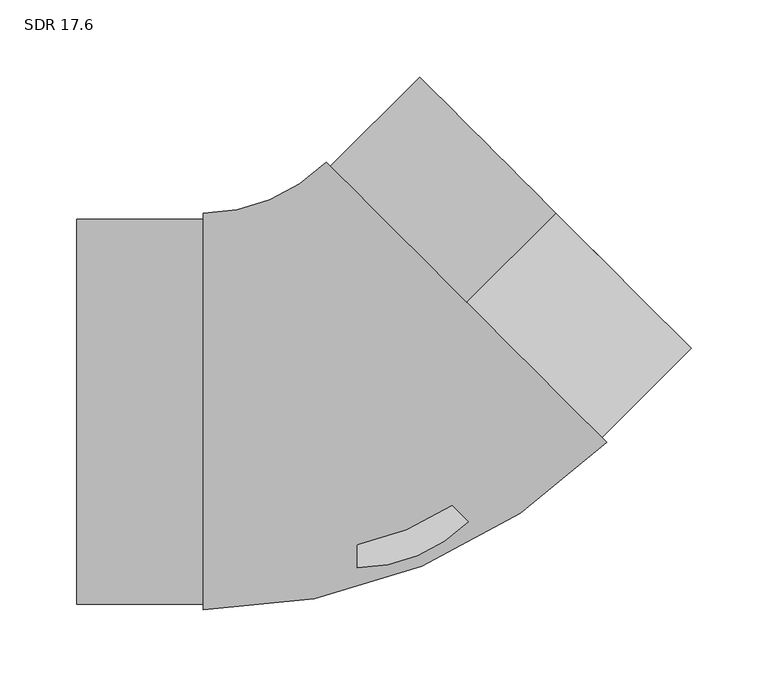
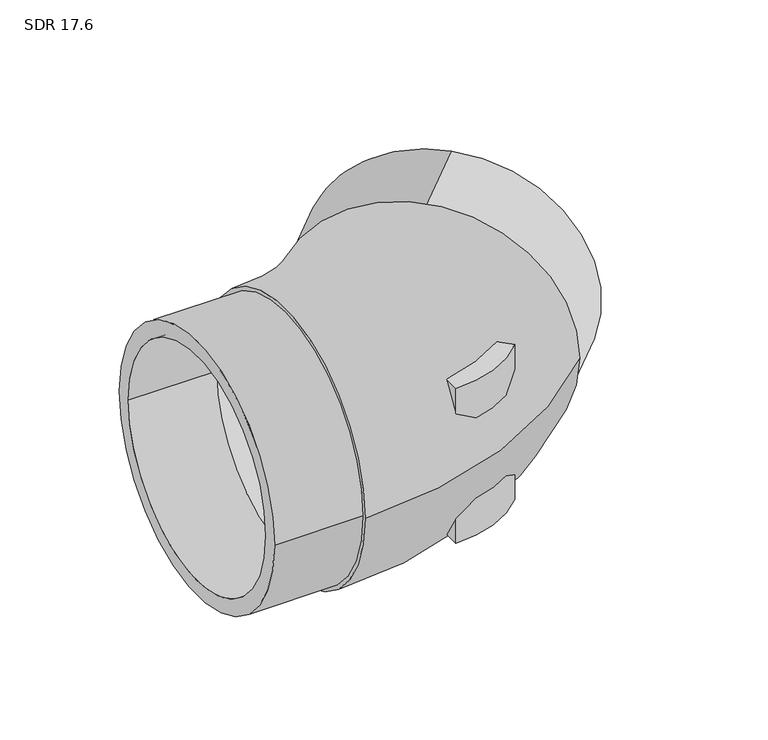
"""IFC4 building model written with IfcOpenShell, lengths in millimetres: pipe fitting geometry, Aquatherm - Elbow BW Molded : SDR 17.6."""

from ifc_helpers import new_model, si_unit, point, frame, frame_2d, origin, origin_with_axes, origin_2d, place, context, project, spatial, polyline, circle_curve, ellipse_curve, trimmed, segment, composite_curve, outline, extrude, source, transform, mapped, element, save
from ifc_brep_helpers import plane_surface, revolved_surface, advanced_brep


def sdr_17_6_bf7580e8(model_context):
    return source(origin(), model_context, "Body", "SolidModel", [
        extrude(outline(composite_curve([segment(polyline([(0.0, -101.6), (0.0, 0.0), (71.8491494, -71.8349478)]), True, "CONTINUOUS"), segment(trimmed(circle_curve(origin_2d(), 101.6), [point((71.8491494, -71.8349478))], [point((0.0, -101.6))], False, "CARTESIAN"), True, "CONTINUOUS")], self_intersect=False)), frame((0.0, 0.0, -76.2), z_axis=(0.0, 0.0, 1.0), x_axis=(1.0, 0.0, 0.0)), (0.0, 0.0, 1.0), 76.2),
        extrude(outline(composite_curve([segment(trimmed(circle_curve(origin_2d(), 101.6), [point((71.8491494, -71.8349478))], [point((0.0, -101.6))], False, "CARTESIAN"), True, "CONTINUOUS"), segment(polyline([(0.0, -101.6), (0.0, 0.0), (71.8491494, -71.8349478)]), True, "CONTINUOUS")], self_intersect=False)), origin_with_axes(), (0.0, 0.0, 1.0), 76.2),
        extrude(outline(composite_curve([segment(trimmed(circle_curve(frame_2d((0.0, -124.968)), 124.968), [point((0.0, -249.936))], [point((0.0, 0.0))], False, "CARTESIAN"), True, "CONTINUOUS"), segment(trimmed(circle_curve(frame_2d((0.0, -124.968)), 124.968), [point((0.0, 0.0))], [point((0.0, -249.936))], False, "CARTESIAN"), True, "CONTINUOUS")], self_intersect=False), holes=[composite_curve([segment(trimmed(circle_curve(frame_2d((0.0, -124.968)), 110.2658824), [point((0.0, -235.2338824))], [point((0.0, -14.7021176))], True, "CARTESIAN"), True, "CONTINUOUS"), segment(trimmed(circle_curve(frame_2d((0.0, -124.968)), 110.2658824), [point((0.0, -14.7021176))], [point((0.0, -235.2338824))], True, "CARTESIAN"), True, "CONTINUOUS")], self_intersect=False)]), frame((70.8202792, 70.8342802, 124.968), z_axis=(0.707036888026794, 0.7071766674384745, 0.0), x_axis=(-0.7071766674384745, 0.707036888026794, 0.0)), (0.0, 0.0, 1.0), 81.9531),
        extrude(outline(composite_curve([segment(trimmed(circle_curve(frame_2d((-0.1496481, 0.0)), 124.968), [point((124.8183519, 0.0))], [point((-125.1176481, 0.0))], False, "CARTESIAN"), True, "CONTINUOUS"), segment(trimmed(circle_curve(frame_2d((-0.1496481, 0.0)), 124.968), [point((-125.1176481, 0.0))], [point((124.8183519, 0.0))], False, "CARTESIAN"), True, "CONTINUOUS")], self_intersect=False), holes=[composite_curve([segment(trimmed(circle_curve(origin_2d(), 110.2658824), [point((110.2658824, 0.0))], [point((-110.2658824, 0.0))], True, "CARTESIAN"), True, "CONTINUOUS"), segment(trimmed(circle_curve(origin_2d(), 110.2658824), [point((-110.2658824, 0.0))], [point((110.2658824, 0.0))], True, "CARTESIAN"), True, "CONTINUOUS")], self_intersect=False)]), frame((-182.118, 0.0, 0.0), z_axis=(1.0, 0.0, 0.0), x_axis=(0.0, 1.0, 0.0)), (0.0, 0.0, 1.0), 81.9531),
        advanced_brep(
        [(-100.1649, -128.71704, 0.0), (-100.1649, 128.71704, 0.0), (-100.1649, -110.2658824, 0.0), (-100.1649, 110.2658824, 0.0), (161.8459666, -20.1734152, 0.0), (-20.2054082, 161.8419756, 0.0), (148.7977384, -7.1277661, 0.0), (-7.15718, 148.7963265, 0.0)],
        [
            (0, 1, circle_curve(frame((-100.1649, 0.0, 0.0), z_axis=(-1.0, 0.0, 0.0), x_axis=(0.0, 1.0, 0.0)), 128.71704)),
            (1, 0, circle_curve(frame((-100.1649, 0.0, 0.0), z_axis=(-1.0, 0.0, 0.0), x_axis=(0.0, 1.0, 0.0)), 128.71704)),
            (2, 3, circle_curve(frame((-100.1649, 0.0, 0.0), z_axis=(1.0, 0.0, 0.0), x_axis=(0.0, 1.0, 0.0)), 110.2658824)),
            (3, 2, circle_curve(frame((-100.1649, 0.0, 0.0), z_axis=(1.0, 0.0, 0.0), x_axis=(0.0, 1.0, 0.0)), 110.2658824)),
            (4, 5, circle_curve(frame((70.8202792, 70.8342802, 0.0), z_axis=(0.707036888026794, 0.7071766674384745, 0.0), x_axis=(-0.7071766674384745, 0.707036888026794, 0.0)), 128.71704)),
            (5, 4, circle_curve(frame((70.8202792, 70.8342802, 0.0), z_axis=(0.707036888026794, 0.7071766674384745, 0.0), x_axis=(-0.7071766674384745, 0.707036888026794, 0.0)), 128.71704)),
            (6, 7, circle_curve(frame((70.8202792, 70.8342802, 0.0), z_axis=(-0.707036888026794, -0.7071766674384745, 0.0), x_axis=(-0.7071766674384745, 0.707036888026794, 0.0)), 110.2658824)),
            (7, 6, circle_curve(frame((70.8202792, 70.8342802, 0.0), z_axis=(-0.707036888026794, -0.7071766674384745, 0.0), x_axis=(-0.7071766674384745, 0.707036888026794, 0.0)), 110.2658824)),
            (5, 1, circle_curve(frame((-100.1649, 241.7856627, 0.0), z_axis=(0.0, 0.0, -1.0), x_axis=(0.0, -1.0, 0.0)), 113.0686227)),
            (0, 4, circle_curve(frame((-100.1649, 241.7856627, 0.0), z_axis=(0.0, 0.0, 1.0), x_axis=(0.0, -1.0, 0.0)), 370.5027027)),
            (7, 3, circle_curve(frame((-100.1649, 241.7856627, 0.0), z_axis=(0.0, 0.0, -1.0), x_axis=(0.0, -1.0, 0.0)), 131.5197804)),
            (2, 6, circle_curve(frame((-100.1649, 241.7856627, 0.0), z_axis=(0.0, 0.0, 1.0), x_axis=(0.0, -1.0, 0.0)), 352.0515451)),
        ],
        [
            plane_surface(frame((-100.1649, 0.0, 0.0), z_axis=(-1.0, 0.0, 0.0), x_axis=(0.0, 0.0, 1.0))),
            plane_surface(frame((70.8202792, 70.8342802, 0.0), z_axis=(0.707036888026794, 0.7071766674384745, 0.0), x_axis=(0.0, 0.0, 1.0))),
            revolved_surface(trimmed(ellipse_curve(frame((-100.1649, 0.0, 0.0), z_axis=(-1.0, 0.0, 0.0), x_axis=(0.0, 1.0, 0.0)), 128.71704, 128.71704), [point((-100.1649, -128.71704, 0.0))], [point((-100.1649, 128.71704, 0.0))], True, "CARTESIAN"), (-100.1649, 241.7856627, 0.0), (0.0, 0.0, 1.0)),
            revolved_surface(trimmed(ellipse_curve(frame((-100.1649, 0.0, 0.0), z_axis=(-1.0, 0.0, 0.0), x_axis=(0.0, 1.0, 0.0)), 128.71704, 128.71704), [point((-100.1649, 128.71704, 0.0))], [point((-100.1649, -128.71704, 0.0))], True, "CARTESIAN"), (-100.1649, 241.7856627, 0.0), (0.0, 0.0, 1.0)),
            revolved_surface(trimmed(ellipse_curve(frame((-100.1649, 0.0, 0.0), z_axis=(1.0, 0.0, 0.0), x_axis=(0.0, 1.0, 0.0)), 110.2658824, 110.2658824), [point((-100.1649, -110.2658824, 0.0))], [point((-100.1649, 110.2658824, 0.0))], True, "CARTESIAN"), (-100.1649, 241.7856627, 0.0), (0.0, 0.0, 1.0)),
            revolved_surface(trimmed(ellipse_curve(frame((-100.1649, 0.0, 0.0), z_axis=(1.0, 0.0, 0.0), x_axis=(0.0, 1.0, 0.0)), 110.2658824, 110.2658824), [point((-100.1649, 110.2658824, 0.0))], [point((-100.1649, -110.2658824, 0.0))], True, "CARTESIAN"), (-100.1649, 241.7856627, 0.0), (0.0, 0.0, 1.0)),
        ],
        [
            (0, [[1, 2], [3, 4]]),
            (1, [[5, 6], [7, 8]]),
            (2, [[9, -1, 10, -6]]),
            (3, [[-10, -2, -9, -5]]),
            (4, [[11, -3, 12, -8]]),
            (5, [[-12, -4, -11, -7]]),
        ],
    ),
    ])


if __name__ == "__main__":
    model = new_model("IFC4")
    model_context = context("Model", 3, world=origin())
    ifc_project = project(units=[si_unit("LENGTHUNIT", "METRE", prefix="MILLI")], contexts=[model_context])
    site = spatial("IfcSite", under=ifc_project)
    building = spatial("IfcBuilding", under=site)
    placement = place(None, origin())
    sdr_17_6_shape = sdr_17_6_bf7580e8(model_context)
    element("IfcPipeFitting", 1, ObjectType="Aquatherm - Elbow BW Molded : SDR 17.6", at=placement, inside=building, context=model_context, shape_type="MappedRepresentation", body=[
        mapped(sdr_17_6_shape, transform((0.0, 0.0, 0.0), x_axis=(1.0, 0.0, 0.0), y_axis=(0.0, 1.0, 0.0), z_axis=(0.0, 0.0, 1.0))),
    ])
    save(model, "model.ifc")
